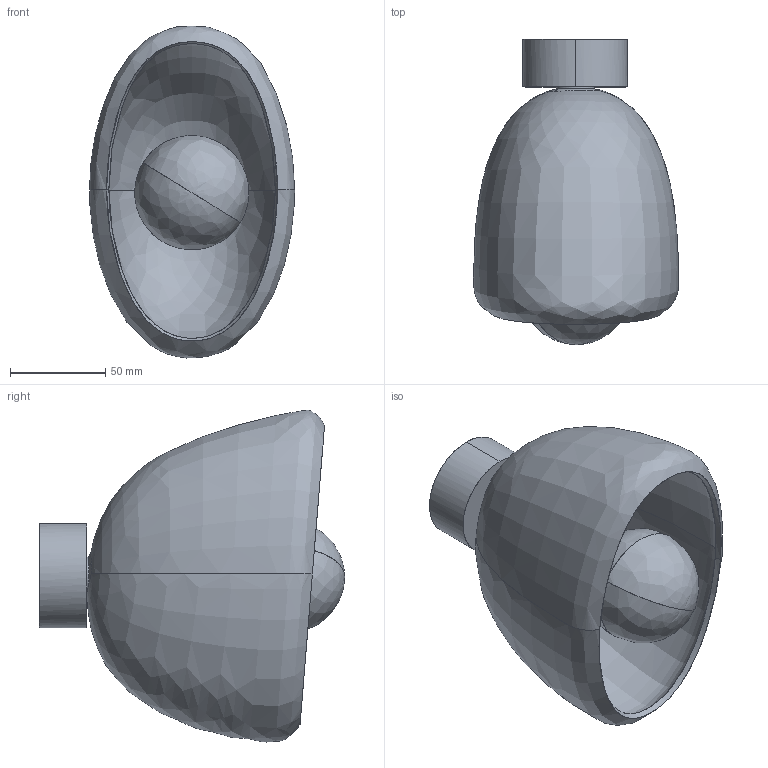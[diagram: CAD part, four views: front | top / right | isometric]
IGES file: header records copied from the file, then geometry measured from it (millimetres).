
Start section: SolidWorks IGES file using analytic representation for surfaces
Global section: file name: C:\Users\adrian\Desktop\Nueva Colección Enero 2026\3D\drive-download-20251230T145340Z-1-001\LADA\A1354.step.IGS; native system: SolidWorks 2023; preprocessor: SolidWorks 2023; author: adrian; date: 251230.163750; units: millimetre
Bounding box: 107.97 x 160.57 x 174.7 mm (x, y, z)
Surface area: 135115 mm2 (no closed solid volume)
Topology: 0 solids, 0 shells, 56 faces, 756 edges, 750 vertices
Faces by surface type: bspline 42, revolution 14
